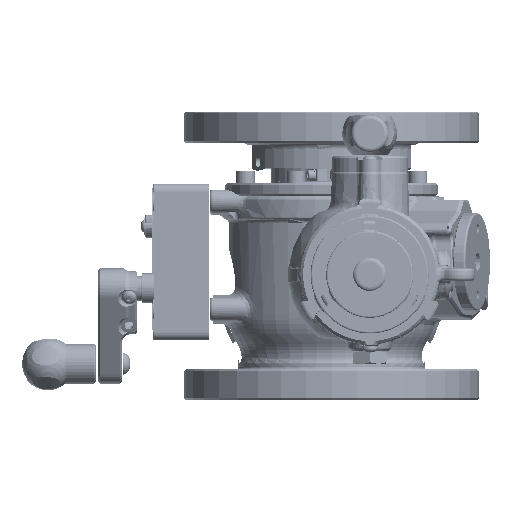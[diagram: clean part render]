
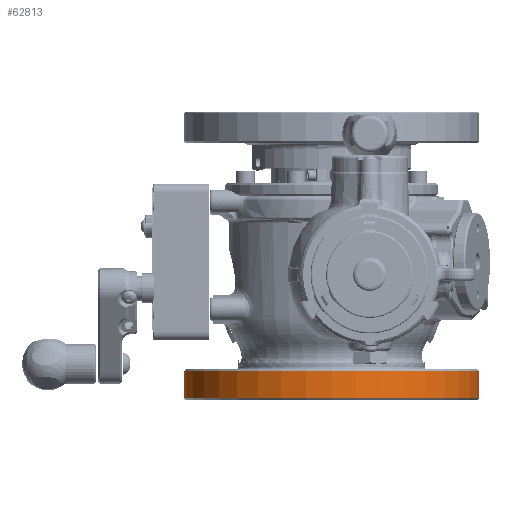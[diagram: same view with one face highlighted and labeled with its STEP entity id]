
A CAD part, top view. The second image highlights one B-rep face of the part: STEP entity #62813.
In plain terms, the highlighted cylindrical face has radius 113.03 mm (diameter 226.06 mm), a partial arc.
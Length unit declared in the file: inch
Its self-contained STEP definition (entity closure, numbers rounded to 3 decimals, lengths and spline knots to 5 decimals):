
#5108 = AXIS2_PLACEMENT_3D ( 'NONE', #135511, #61026, #96897 ) ;
#6368 = CARTESIAN_POINT ( 'NONE',  ( -4.45, 0., 0. ) ) ;
#11469 = CARTESIAN_POINT ( 'NONE',  ( -4.45, -2.4975, 0. ) ) ;
#13064 = FACE_OUTER_BOUND ( 'NONE', #73646, .T. ) ;
#15108 = VECTOR ( 'NONE', #118954, 39.37008 ) ;
#19098 = ORIENTED_EDGE ( 'NONE', *, *, #86771, .T. ) ;
#22378 = DIRECTION ( 'NONE',  ( -1., 0., 0. ) ) ;
#22876 = VERTEX_POINT ( 'NONE', #110245 ) ;
#28063 = EDGE_CURVE ( 'NONE', #110261, #22876, #110407, .T. ) ;
#30294 = DIRECTION ( 'NONE',  ( 0., 1., 0. ) ) ;
#39030 = ORIENTED_EDGE ( 'NONE', *, *, #28063, .T. ) ;
#51766 = CIRCLE ( 'NONE', #5108, 4.45 ) ;
#56120 = AXIS2_PLACEMENT_3D ( 'NONE', #83851, #120300, #22378 ) ;
#61026 = DIRECTION ( 'NONE',  ( 0., 1., 0. ) ) ;
#62813 = ADVANCED_FACE ( 'NONE', ( #13064 ), #129780, .T. ) ;
#64372 = DIRECTION ( 'NONE',  ( 0., 1., 0. ) ) ;
#68360 = VERTEX_POINT ( 'NONE', #11469 ) ;
#71858 = ORIENTED_EDGE ( 'NONE', *, *, #95745, .F. ) ;
#73646 = EDGE_LOOP ( 'NONE', ( #19098, #39030, #88764, #71858 ) ) ;
#77422 = DIRECTION ( 'NONE',  ( -1., 0., 0. ) ) ;
#83851 = CARTESIAN_POINT ( 'NONE',  ( 0., -2.4975, 0. ) ) ;
#84867 = VERTEX_POINT ( 'NONE', #88473 ) ;
#86771 = EDGE_CURVE ( 'NONE', #84867, #110261, #51766, .T. ) ;
#88473 = CARTESIAN_POINT ( 'NONE',  ( -4.45, -3.3125, 0. ) ) ;
#88764 = ORIENTED_EDGE ( 'NONE', *, *, #118316, .F. ) ;
#95745 = EDGE_CURVE ( 'NONE', #84867, #68360, #159285, .T. ) ;
#96897 = DIRECTION ( 'NONE',  ( -1., 0., 0. ) ) ;
#106946 = CARTESIAN_POINT ( 'NONE',  ( 4.45, 0., 0. ) ) ;
#110245 = CARTESIAN_POINT ( 'NONE',  ( 4.45, -2.4975, 0. ) ) ;
#110261 = VERTEX_POINT ( 'NONE', #117184 ) ;
#110407 = LINE ( 'NONE', #106946, #15108 ) ;
#112306 = CIRCLE ( 'NONE', #56120, 4.45 ) ;
#114415 = AXIS2_PLACEMENT_3D ( 'NONE', #139373, #64372, #77422 ) ;
#117184 = CARTESIAN_POINT ( 'NONE',  ( 4.45, -3.3125, 0. ) ) ;
#118316 = EDGE_CURVE ( 'NONE', #68360, #22876, #112306, .T. ) ;
#118954 = DIRECTION ( 'NONE',  ( 0., 1., 0. ) ) ;
#120300 = DIRECTION ( 'NONE',  ( 0., 1., 0. ) ) ;
#129780 = CYLINDRICAL_SURFACE ( 'NONE', #114415, 4.45 ) ;
#135511 = CARTESIAN_POINT ( 'NONE',  ( 0., -3.3125, 0. ) ) ;
#139373 = CARTESIAN_POINT ( 'NONE',  ( 0., 0., 0. ) ) ;
#157239 = VECTOR ( 'NONE', #30294, 39.37008 ) ;
#159285 = LINE ( 'NONE', #6368, #157239 ) ;
